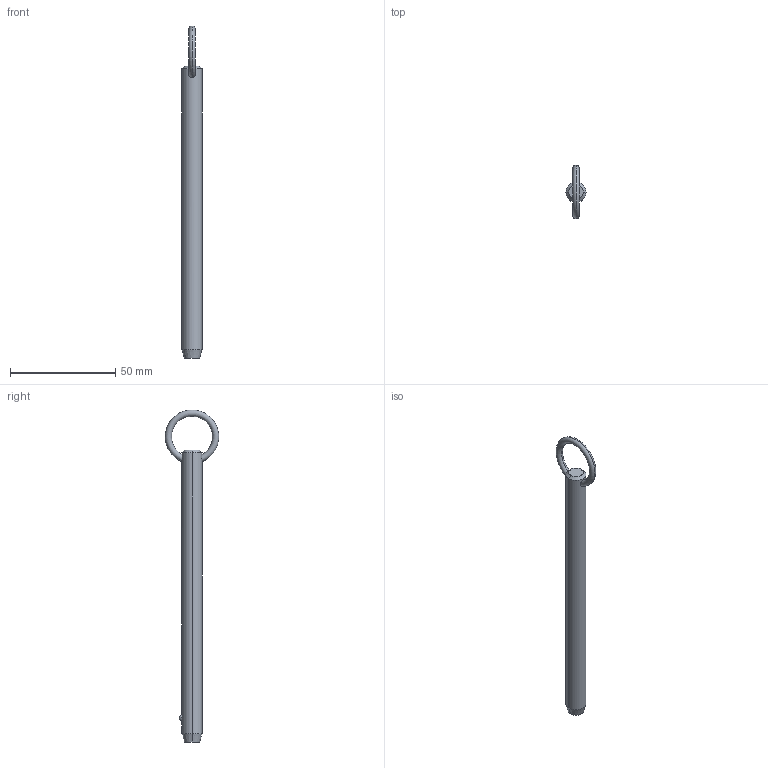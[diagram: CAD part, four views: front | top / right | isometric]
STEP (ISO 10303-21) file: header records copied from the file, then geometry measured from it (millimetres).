
FILE_DESCRIPTION (( 'STEP AP203' ), '1' );
FILE_NAME ('P1250.037-470.step', '2019-07-29T20:11:50', ( '' ), ( '' ), 'SwSTEP 2.0', 'SolidWorks 2017', '' );
FILE_SCHEMA (( 'CONFIG_CONTROL_DESIGN' ));
Length unit declared in the file: millimetre
Products named in the file (1): P1250.037-470
Bounding box: 9.52 x 25.39 x 157.5 mm (x, y, z)
Volume: 10206.2 mm3; surface area: 4783 mm2
Topology: 1 solids, 1 shells, 12 faces, 28 edges, 17 vertices
Faces by surface type: cone 4, torus 2, sphere 2, cylinder 2, plane 2
Entity records: 523 total; most frequent: CARTESIAN_POINT 190, DIRECTION 56, ORIENTED_EDGE 48, AXIS2_PLACEMENT_3D 25, EDGE_CURVE 24, EDGE_LOOP 15, VERTEX_POINT 15, ADVANCED_FACE 12
